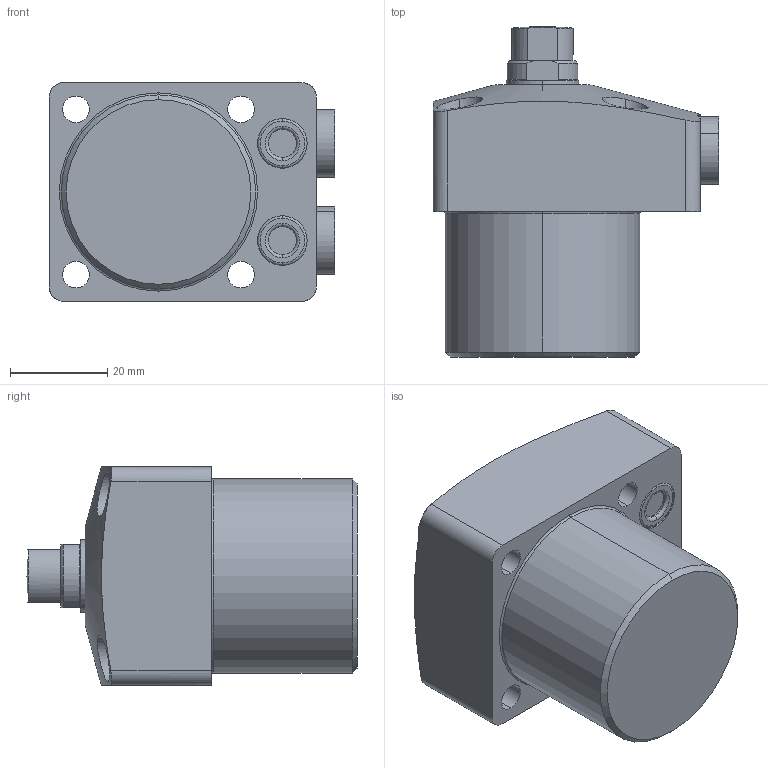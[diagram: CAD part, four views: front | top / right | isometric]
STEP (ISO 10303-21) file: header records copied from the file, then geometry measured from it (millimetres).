
FILE_DESCRIPTION(/* description */ (''),/* implementation_level */ '2;1');
FILE_NAME(/* name */ 'FSC04_step.stp',/* time_stamp */ '2022-11-16T13:19:35+08:00',/* author */ (''),/* organization */ (''),/* preprocessor_version */ 'ST-DEVELOPER v16.7',/* originating_system */ 'SIEMENS PLM Software NX 12.0',/* authorisation */ '');
FILE_SCHEMA (('AP203_CONFIGURATION_CONTROLLED_3D_DESIGN_OF_MECHANICAL_PARTS_AND_ASSEMBLIES_MIM_LF { 1 0 10303 403 2 1 2}'));
Length unit declared in the file: millimetre
Products named in the file (5): FSC04-01; FSC04-03; FSC04-02; FSC04-04; CSU04_step
Assembly tree (5 placements, depth 2):
  CSU04_step
    FSC04-04  x2
    FSC04-02
    FSC04-03
    FSC04-01
Bounding box: 58.8 x 68 x 45 mm (x, y, z)
Volume: 93462.9 mm3; surface area: 19599.9 mm2
Topology: 5 solids, 7 shells, 197 faces, 430 edges, 265 vertices
Faces by surface type: cylinder 82, plane 55, torus 30, cone 28, sphere 2
Entity records: 5643 total; most frequent: CARTESIAN_POINT 1010, DIRECTION 942, ORIENTED_EDGE 776, AXIS2_PLACEMENT_3D 405, EDGE_CURVE 388, VERTEX_POINT 239, CIRCLE 222, EDGE_LOOP 207
